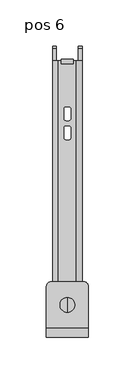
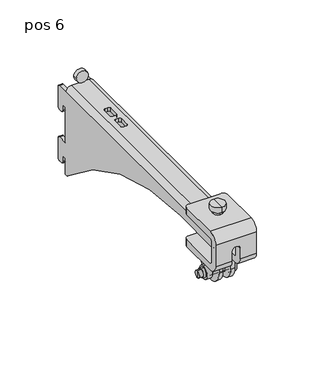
"""IFC4 building model written with IfcOpenShell, lengths in millimetres: proxy geometry, ePS8-WM280-BUMP-WVM : pos 6."""

from ifc_helpers import new_model, si_unit, point, frame, frame_2d, origin, place, context, project, spatial, polyline, circle_curve, trimmed, segment, composite_curve, outline, extrude, source, transform, mapped, element, save
from ifc_brep_helpers import plane_surface, cylinder_surface, revolved_surface, advanced_brep


def pos_6_8ef66853(model_context):
    return source(origin(), model_context, "Body", "SolidModel", [
        advanced_brep(
        [(9.6, -279.0, -76.9472975), (9.6, -279.0, -60.9805626), (16.6, -279.0, -60.9805626), (16.6, -279.0, -76.9472975), (9.6, -279.0, -74.0103853), (9.6, -279.0, -63.9174748), (-10.4, -279.0, -74.0103853), (-10.4, -279.0, -63.9174748), (-10.4, -279.0, -76.3769014), (-10.4, -279.0, -61.5509587), (-15.9, -279.0, -76.3769014), (-15.9, -279.0, -61.5509587), (-15.9, -279.0, -74.4963361), (-15.9, -279.0, -63.431524), (-22.5, -279.0, -72.9731966), (-22.5, -279.0, -64.9546636), (-18.4, -279.0, -64.9546636), (-18.4, -279.0, -72.9731966), (-22.5, -279.0, -68.9639301), (16.6, -279.0, -68.9639301), (-18.4, -279.0, -74.0103853), (-18.4, -279.0, -63.9174748)],
        [
            (0, 1, circle_curve(frame((9.6, -279.0, -68.9639301), z_axis=(1.0, 0.0, 0.0), x_axis=(0.0, 0.0, 1.0)), 7.9833675)),
            (1, 2),
            (2, 3, circle_curve(frame((16.6, -279.0, -68.9639301), z_axis=(-1.0, 0.0, 0.0), x_axis=(0.0, 0.0, 1.0)), 7.9833675)),
            (3, 0),
            (1, 0, circle_curve(frame((9.6, -279.0, -68.9639301), z_axis=(1.0, 0.0, 0.0), x_axis=(0.0, 0.0, 1.0)), 7.9833675)),
            (3, 2, circle_curve(frame((16.6, -279.0, -68.9639301), z_axis=(-1.0, 0.0, 0.0), x_axis=(0.0, 0.0, 1.0)), 7.9833675)),
            (4, 5, circle_curve(frame((9.6, -279.0, -68.9639301), z_axis=(1.0, 0.0, 0.0), x_axis=(0.0, 0.0, 1.0)), 5.0464553)),
            (5, 1),
            (0, 4),
            (5, 4, circle_curve(frame((9.6, -279.0, -68.9639301), z_axis=(1.0, 0.0, 0.0), x_axis=(0.0, 0.0, 1.0)), 5.0464553)),
            (6, 7, circle_curve(frame((-10.4, -279.0, -68.9639301), z_axis=(1.0, 0.0, 0.0), x_axis=(0.0, 0.0, 1.0)), 5.0464553)),
            (7, 5),
            (4, 6),
            (7, 6, circle_curve(frame((-10.4, -279.0, -68.9639301), z_axis=(1.0, 0.0, 0.0), x_axis=(0.0, 0.0, 1.0)), 5.0464553)),
            (8, 9, circle_curve(frame((-10.4, -279.0, -68.9639301), z_axis=(1.0, 0.0, 0.0), x_axis=(0.0, 0.0, 1.0)), 7.4129714)),
            (9, 7),
            (6, 8),
            (9, 8, circle_curve(frame((-10.4, -279.0, -68.9639301), z_axis=(1.0, 0.0, 0.0), x_axis=(0.0, 0.0, 1.0)), 7.4129714)),
            (10, 11, circle_curve(frame((-15.9, -279.0, -68.9639301), z_axis=(1.0, 0.0, 0.0), x_axis=(0.0, 0.0, 1.0)), 7.4129714)),
            (11, 9),
            (8, 10),
            (11, 10, circle_curve(frame((-15.9, -279.0, -68.9639301), z_axis=(1.0, 0.0, 0.0), x_axis=(0.0, 0.0, 1.0)), 7.4129714)),
            (12, 13, circle_curve(frame((-15.9, -279.0, -68.9639301), z_axis=(1.0, 0.0, 0.0), x_axis=(0.0, 0.0, 1.0)), 5.532406)),
            (13, 11),
            (10, 12),
            (13, 12, circle_curve(frame((-15.9, -279.0, -68.9639301), z_axis=(1.0, 0.0, 0.0), x_axis=(0.0, 0.0, 1.0)), 5.532406)),
            (14, 15, circle_curve(frame((-22.5, -279.0, -68.9639301), z_axis=(1.0, 0.0, 0.0), x_axis=(0.0, 0.0, 1.0)), 4.0092665)),
            (15, 16),
            (16, 17, circle_curve(frame((-18.4, -279.0, -68.9639301), z_axis=(-1.0, 0.0, 0.0), x_axis=(0.0, 0.0, 1.0)), 4.0092665)),
            (17, 14),
            (15, 14, circle_curve(frame((-22.5, -279.0, -68.9639301), z_axis=(1.0, 0.0, 0.0), x_axis=(0.0, 0.0, 1.0)), 4.0092665)),
            (17, 16, circle_curve(frame((-18.4, -279.0, -68.9639301), z_axis=(-1.0, 0.0, 0.0), x_axis=(0.0, 0.0, 1.0)), 4.0092665)),
            (18, 15),
            (14, 18),
            (2, 19),
            (19, 3),
            (20, 21, circle_curve(frame((-18.4, -279.0, -68.9639301), z_axis=(1.0, 0.0, 0.0), x_axis=(0.0, 0.0, 1.0)), 5.0464553)),
            (21, 13),
            (12, 20),
            (21, 20, circle_curve(frame((-18.4, -279.0, -68.9639301), z_axis=(1.0, 0.0, 0.0), x_axis=(0.0, 0.0, 1.0)), 5.0464553)),
            (16, 21),
            (20, 17),
        ],
        [
            cylinder_surface(frame((-47.541832, -279.0, -68.9639301), z_axis=(-1.0, 0.0, 0.0), x_axis=(0.0, 0.0, 1.0)), 7.9833675),
            plane_surface(frame((9.6, -279.0, -68.9639301), z_axis=(-1.0, 0.0, 0.0), x_axis=(0.0, 0.0, 1.0))),
            cylinder_surface(frame((-47.541832, -279.0, -68.9639301), z_axis=(-1.0, 0.0, 0.0), x_axis=(0.0, 0.0, 1.0)), 5.0464553),
            plane_surface(frame((-10.4, -279.0, -68.9639301), z_axis=(1.0, 0.0, 0.0), x_axis=(0.0, 0.0, 1.0))),
            cylinder_surface(frame((-47.541832, -279.0, -68.9639301), z_axis=(-1.0, 0.0, 0.0), x_axis=(0.0, 0.0, 1.0)), 7.4129714),
            plane_surface(frame((-15.9, -279.0, -68.9639301), z_axis=(-1.0, 0.0, 0.0), x_axis=(0.0, 0.0, 1.0))),
            cylinder_surface(frame((-47.541832, -279.0, -68.9639301), z_axis=(-1.0, 0.0, 0.0), x_axis=(0.0, 0.0, 1.0)), 4.0092665),
            plane_surface(frame((-22.5, -279.0, -68.9639301), z_axis=(-1.0, 0.0, 0.0), x_axis=(0.0, 0.0, 1.0))),
            plane_surface(frame((16.6, -279.0, -68.9639301), z_axis=(1.0, 0.0, 0.0), x_axis=(0.0, 0.0, 1.0))),
            revolved_surface(polyline([(-15.9, -279.0, -63.431524), (-18.4, -279.0, -63.9174748)]), (-47.541832, -279.0, -68.9639301), (-1.0, 0.0, 0.0)),
            plane_surface(frame((-18.4, -279.0, -68.9639301), z_axis=(-1.0, 0.0, 0.0), x_axis=(0.0, 0.0, 1.0))),
        ],
        [
            (0, [[1, 2, 3, 4]]),
            (0, [[5, -4, 6, -2]]),
            (1, [[7, 8, -1, 9]]),
            (1, [[10, -9, -5, -8]]),
            (2, [[11, 12, -7, 13]]),
            (2, [[14, -13, -10, -12]]),
            (3, [[15, 16, -11, 17]]),
            (3, [[18, -17, -14, -16]]),
            (4, [[19, 20, -15, 21]]),
            (4, [[22, -21, -18, -20]]),
            (5, [[23, 24, -19, 25]]),
            (5, [[26, -25, -22, -24]]),
            (6, [[27, 28, 29, 30]]),
            (6, [[31, -30, 32, -28]]),
            (7, [[33, -27, 34]]),
            (7, [[-34, -31, -33]]),
            (8, [[-3, 35, 36]]),
            (8, [[-6, -36, -35]]),
            (9, [[37, 38, -23, 39]]),
            (9, [[40, -39, -26, -38]]),
            (10, [[-29, 41, -37, 42]]),
            (10, [[-32, -42, -40, -41]]),
        ],
    ),
        extrude(outline(composite_curve([segment(polyline([(-296.5, -61.9639301), (-296.5, -48.9639301), (-261.5, -48.9639301), (-261.5, -61.9639301)]), True, "CONTINUOUS"), segment(trimmed(circle_curve(frame_2d((-278.5, -61.9639301)), 17.0), [point((-261.5, -61.9639301))], [point((-278.5, -78.9639301))], False, "CARTESIAN"), True, "CONTINUOUS"), segment(polyline([(-278.5, -78.9639301), (-279.5, -78.9639301)]), True, "CONTINUOUS"), segment(trimmed(circle_curve(frame_2d((-279.5, -61.9639301)), 17.0), [point((-279.5, -78.9639301))], [point((-296.5, -61.9639301))], False, "CARTESIAN"), True, "CONTINUOUS")], self_intersect=False), holes=[composite_curve([segment(trimmed(circle_curve(frame_2d((-279.0, -68.9639301)), 5.5), [point((-273.5, -68.9639301))], [point((-284.5, -68.9639301))], True, "CARTESIAN"), True, "CONTINUOUS"), segment(trimmed(circle_curve(frame_2d((-279.0, -68.9639301)), 5.5), [point((-284.5, -68.9639301))], [point((-273.5, -68.9639301))], True, "CARTESIAN"), True, "CONTINUOUS")], self_intersect=False)]), frame((4.5, 0.0, 0.0), z_axis=(1.0, 0.0, 0.0), x_axis=(0.0, 1.0, 0.0)), (0.0, 0.0, 1.0), 4.2),
        extrude(outline(composite_curve([segment(polyline([(-296.5, -48.9639301), (-261.5, -48.9639301), (-261.5, -61.9639301)]), True, "CONTINUOUS"), segment(trimmed(circle_curve(frame_2d((-278.5, -61.9639301)), 17.0), [point((-261.5, -61.9639301))], [point((-278.5, -78.9639301))], False, "CARTESIAN"), True, "CONTINUOUS"), segment(polyline([(-278.5, -78.9639301), (-279.5, -78.9639301)]), True, "CONTINUOUS"), segment(trimmed(circle_curve(frame_2d((-279.5, -61.9639301)), 17.0), [point((-279.5, -78.9639301))], [point((-296.5, -61.9639301))], False, "CARTESIAN"), True, "CONTINUOUS"), segment(polyline([(-296.5, -61.9639301), (-296.5, -48.9639301)]), True, "CONTINUOUS")], self_intersect=False), holes=[composite_curve([segment(trimmed(circle_curve(frame_2d((-279.0, -68.9639301)), 5.5), [point((-284.5, -68.9639301))], [point((-273.5, -68.9639301))], True, "CARTESIAN"), True, "CONTINUOUS"), segment(trimmed(circle_curve(frame_2d((-279.0, -68.9639301)), 5.5), [point((-273.5, -68.9639301))], [point((-284.5, -68.9639301))], True, "CARTESIAN"), True, "CONTINUOUS")], self_intersect=False)]), frame((-8.7, 0.0, 0.0), z_axis=(1.0, 0.0, 0.0), x_axis=(0.0, 1.0, 0.0)), (0.0, 0.0, 1.0), 4.2),
        advanced_brep(
        [(22.5, -304.0, -3.9639301), (22.5, -314.0, -13.9639301), (22.5, -314.0, -38.9639301), (22.5, -304.0, -48.9639301), (22.5, -259.0, -48.9639301), (22.5, -259.0, -40.9639301), (22.5, -304.0, -40.9639301), (22.5, -306.0, -38.9639301), (22.5, -306.0, -13.9639301), (22.5, -304.0, -11.9639301), (22.5, -259.0, -11.9639301), (22.5, -259.0, -3.9639301), (-22.5, -304.0, -11.9639301), (-22.5, -306.0, -13.9639301), (-22.5, -306.0, -38.9639301), (-22.5, -304.0, -40.9639301), (-22.5, -259.0, -40.9639301), (-22.5, -259.0, -48.9639301), (-22.5, -304.0, -48.9639301), (-22.5, -314.0, -38.9639301), (-22.5, -314.0, -13.9639301), (-22.5, -304.0, -3.9639301), (-22.5, -259.0, -3.9639301), (-22.5, -259.0, -11.9639301), (-4.5, -314.0, -38.9639301), (-4.5, -314.0, -27.388708), (-0.5, -314.0, -23.388708), (0.5, -314.0, -23.388708), (4.5, -314.0, -27.388708), (4.5, -314.0, -38.9639301), (4.5, -304.0, -48.9639301), (-4.5, -304.0, -48.9639301), (4.5, -259.0, -48.9639301), (9.5, -254.0, -48.9639301), (17.5, -254.0, -48.9639301), (-17.5, -254.0, -48.9639301), (-9.5, -254.0, -48.9639301), (-4.5, -259.0, -48.9639301), (-17.5, -254.0, -40.9639301), (-9.5, -254.0, -40.9639301), (17.5, -254.0, -40.9639301), (9.5, -254.0, -40.9639301), (4.5, -259.0, -40.9639301), (4.5, -304.0, -40.9639301), (-4.5, -304.0, -40.9639301), (-4.5, -259.0, -40.9639301), (4.5, -306.0, -38.9639301), (-4.5, -306.0, -38.9639301), (4.5, -306.0, -27.388708), (0.5, -306.0, -23.388708), (-0.5, -306.0, -23.388708), (-4.5, -306.0, -27.388708), (-17.5, -254.0, -11.9639301), (17.5, -254.0, -11.9639301), (-5.4761514, -279.0, -11.9639301), (5.4761514, -279.0, -11.9639301), (-17.5, -254.0, -3.9639301), (17.5, -254.0, -3.9639301), (5.4761514, -279.0, -3.9639301), (-5.4761514, -279.0, -3.9639301)],
        [
            (0, 1, circle_curve(frame((22.5, -304.0, -13.9639301), z_axis=(1.0, 0.0, 0.0), x_axis=(0.0, 1.0, 0.0)), 10.0)),
            (1, 2),
            (2, 3, circle_curve(frame((22.5, -304.0, -38.9639301), z_axis=(1.0, 0.0, 0.0), x_axis=(0.0, 1.0, 0.0)), 10.0)),
            (3, 4),
            (4, 5),
            (5, 6),
            (6, 7, circle_curve(frame((22.5, -304.0, -38.9639301), z_axis=(-1.0, 0.0, 0.0), x_axis=(0.0, 1.0, 0.0)), 2.0)),
            (7, 8),
            (8, 9, circle_curve(frame((22.5, -304.0, -13.9639301), z_axis=(-1.0, 0.0, 0.0), x_axis=(0.0, 1.0, 0.0)), 2.0)),
            (9, 10),
            (10, 11),
            (11, 0),
            (12, 13, circle_curve(frame((-22.5, -304.0, -13.9639301), z_axis=(1.0, 0.0, 0.0), x_axis=(0.0, 1.0, 0.0)), 2.0)),
            (13, 14),
            (14, 15, circle_curve(frame((-22.5, -304.0, -38.9639301), z_axis=(1.0, 0.0, 0.0), x_axis=(0.0, 1.0, 0.0)), 2.0)),
            (15, 16),
            (16, 17),
            (17, 18),
            (18, 19, circle_curve(frame((-22.5, -304.0, -38.9639301), z_axis=(-1.0, 0.0, 0.0), x_axis=(0.0, 1.0, 0.0)), 10.0)),
            (19, 20),
            (20, 21, circle_curve(frame((-22.5, -304.0, -13.9639301), z_axis=(-1.0, 0.0, 0.0), x_axis=(0.0, 1.0, 0.0)), 10.0)),
            (21, 22),
            (22, 23),
            (23, 12),
            (0, 21),
            (20, 1),
            (19, 24),
            (24, 25),
            (25, 26, circle_curve(frame((-0.5, -314.0, -27.388708), z_axis=(0.0, 1.0, 0.0), x_axis=(1.0, 0.0, 0.0)), 4.0)),
            (26, 27),
            (27, 28, circle_curve(frame((0.5, -314.0, -27.388708), z_axis=(0.0, 1.0, 0.0), x_axis=(1.0, 0.0, 0.0)), 4.0)),
            (28, 29),
            (29, 2),
            (29, 30, circle_curve(frame((4.5, -304.0, -38.9639301), z_axis=(1.0, 0.0, 0.0), x_axis=(0.0, 1.0, 0.0)), 10.0)),
            (30, 3),
            (18, 31),
            (31, 24, circle_curve(frame((-4.5, -304.0, -38.9639301), z_axis=(-1.0, 0.0, 0.0), x_axis=(0.0, 1.0, 0.0)), 10.0)),
            (30, 32),
            (32, 33, circle_curve(frame((9.5, -259.0, -48.9639301), z_axis=(0.0, 0.0, -1.0), x_axis=(-1.0, 0.0, 0.0)), 5.0)),
            (33, 34),
            (34, 4, circle_curve(frame((17.5, -259.0, -48.9639301), z_axis=(0.0, 0.0, -1.0), x_axis=(-1.0, 0.0, 0.0)), 5.0)),
            (17, 35, circle_curve(frame((-17.5, -259.0, -48.9639301), z_axis=(0.0, 0.0, -1.0), x_axis=(1.0, 0.0, 0.0)), 5.0)),
            (35, 36),
            (36, 37, circle_curve(frame((-9.5, -259.0, -48.9639301), z_axis=(0.0, 0.0, -1.0), x_axis=(1.0, 0.0, 0.0)), 5.0)),
            (37, 31),
            (35, 38),
            (38, 39),
            (39, 36),
            (40, 34),
            (33, 41),
            (41, 40),
            (5, 40, circle_curve(frame((17.5, -259.0, -40.9639301), z_axis=(0.0, 0.0, 1.0), x_axis=(-1.0, 0.0, 0.0)), 5.0)),
            (41, 42, circle_curve(frame((9.5, -259.0, -40.9639301), z_axis=(0.0, 0.0, 1.0), x_axis=(-1.0, 0.0, 0.0)), 5.0)),
            (42, 43),
            (43, 6),
            (15, 44),
            (44, 45),
            (45, 39, circle_curve(frame((-9.5, -259.0, -40.9639301), z_axis=(0.0, 0.0, 1.0), x_axis=(1.0, 0.0, 0.0)), 5.0)),
            (38, 16, circle_curve(frame((-17.5, -259.0, -40.9639301), z_axis=(0.0, 0.0, 1.0), x_axis=(1.0, 0.0, 0.0)), 5.0)),
            (43, 46, circle_curve(frame((4.5, -304.0, -38.9639301), z_axis=(-1.0, 0.0, 0.0), x_axis=(0.0, 1.0, 0.0)), 2.0)),
            (46, 7),
            (14, 47),
            (47, 44, circle_curve(frame((-4.5, -304.0, -38.9639301), z_axis=(1.0, 0.0, 0.0), x_axis=(0.0, 1.0, 0.0)), 2.0)),
            (46, 48),
            (48, 49, circle_curve(frame((0.5, -306.0, -27.388708), z_axis=(0.0, -1.0, 0.0), x_axis=(1.0, 0.0, 0.0)), 4.0)),
            (49, 50),
            (50, 51, circle_curve(frame((-0.5, -306.0, -27.388708), z_axis=(0.0, -1.0, 0.0), x_axis=(1.0, 0.0, 0.0)), 4.0)),
            (51, 47),
            (13, 8),
            (12, 9),
            (23, 52, circle_curve(frame((-17.5, -259.0, -11.9639301), z_axis=(0.0, 0.0, -1.0), x_axis=(1.0, 0.0, 0.0)), 5.0)),
            (52, 53),
            (53, 10, circle_curve(frame((17.5, -259.0, -11.9639301), z_axis=(0.0, 0.0, -1.0), x_axis=(-1.0, 0.0, 0.0)), 5.0)),
            (54, 55, circle_curve(frame((0.0, -279.0, -11.9639301), z_axis=(0.0, 0.0, 1.0), x_axis=(1.0, 0.0, 0.0)), 5.4761514)),
            (55, 54, circle_curve(frame((0.0, -279.0, -11.9639301), z_axis=(0.0, 0.0, 1.0), x_axis=(1.0, 0.0, 0.0)), 5.4761514)),
            (52, 56),
            (56, 57),
            (57, 53),
            (11, 57, circle_curve(frame((17.5, -259.0, -3.9639301), z_axis=(0.0, 0.0, 1.0), x_axis=(-1.0, 0.0, 0.0)), 5.0)),
            (56, 22, circle_curve(frame((-17.5, -259.0, -3.9639301), z_axis=(0.0, 0.0, 1.0), x_axis=(1.0, 0.0, 0.0)), 5.0)),
            (58, 59, circle_curve(frame((0.0, -279.0, -3.9639301), z_axis=(0.0, 0.0, -1.0), x_axis=(1.0, 0.0, 0.0)), 5.4761514)),
            (59, 58, circle_curve(frame((0.0, -279.0, -3.9639301), z_axis=(0.0, 0.0, -1.0), x_axis=(1.0, 0.0, 0.0)), 5.4761514)),
            (58, 55),
            (54, 59),
            (28, 48),
            (42, 32),
            (27, 49),
            (26, 50),
            (25, 51),
            (37, 45),
        ],
        [
            plane_surface(frame((22.5, -294.0, -13.9639301), z_axis=(1.0, 0.0, 0.0), x_axis=(0.0, 0.0, 1.0))),
            plane_surface(frame((-22.5, -294.0, -13.9639301), z_axis=(-1.0, 0.0, 0.0), x_axis=(0.0, 0.0, -1.0))),
            cylinder_surface(frame((-22.5, -304.0, -13.9639301), z_axis=(1.0, 0.0, 0.0), x_axis=(0.0, 1.0, 0.0)), 10.0),
            plane_surface(frame((22.5, -314.0, -13.9639301), z_axis=(0.0, -1.0, 0.0), x_axis=(-1.0, 0.0, 0.0))),
            cylinder_surface(frame((-22.5, -304.0, -38.9639301), z_axis=(1.0, 0.0, 0.0), x_axis=(0.0, 1.0, 0.0)), 10.0),
            plane_surface(frame((22.5, -304.0, -48.9639301), z_axis=(0.0, 0.0, -1.0), x_axis=(-1.0, 0.0, 0.0))),
            plane_surface(frame((22.5, -254.0, -48.9639301), z_axis=(0.0, 1.0, 0.0), x_axis=(-1.0, 0.0, 0.0))),
            plane_surface(frame((22.5, -254.0, -40.9639301), z_axis=(0.0, 0.0, 1.0), x_axis=(-1.0, 0.0, 0.0))),
            revolved_surface(polyline([(4.5, -302.0, -38.9639301), (22.5, -302.0, -38.9639301)]), (-22.5, -304.0, -38.9639301), (-1.0, 0.0, 0.0)),
            revolved_surface(polyline([(-22.5, -302.0, -38.9639301), (-4.5, -302.0, -38.9639301)]), (-22.5, -304.0, -38.9639301), (-1.0, 0.0, 0.0)),
            plane_surface(frame((22.5, -306.0, -38.9639301), z_axis=(0.0, 1.0, 0.0), x_axis=(-1.0, 0.0, 0.0))),
            revolved_surface(polyline([(-22.5, -302.0, -13.9639301), (22.5, -302.0, -13.9639301)]), (-22.5, -304.0, -13.9639301), (-1.0, 0.0, 0.0)),
            plane_surface(frame((22.5, -304.0, -11.9639301), z_axis=(0.0, 0.0, -1.0), x_axis=(-1.0, 0.0, 0.0))),
            plane_surface(frame((22.5, -254.0, -11.9639301), z_axis=(0.0, 1.0, 0.0), x_axis=(-1.0, 0.0, 0.0))),
            plane_surface(frame((22.5, -254.0, -3.9639301), z_axis=(0.0, 0.0, 1.0), x_axis=(-1.0, 0.0, 0.0))),
            cylinder_surface(frame((-17.5, -259.0, -48.9639301), z_axis=(0.0, 0.0, -1.0), x_axis=(1.0, 0.0, 0.0)), 5.0),
            cylinder_surface(frame((17.5, -259.0, -11.9639301), z_axis=(0.0, 0.0, -1.0), x_axis=(-1.0, 0.0, 0.0)), 5.0),
            revolved_surface(polyline([(5.4761514, -279.0, -3.9639301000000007), (5.4761514, -279.0, -11.9639301)]), (0.0, -279.0, -11.9639301), (0.0, 0.0, 1.0)),
            plane_surface(frame((4.5, -314.0, -78.9639301), z_axis=(-1.0, 0.0, 0.0), x_axis=(0.0, 1.0, 0.0))),
            revolved_surface(polyline([(4.5, -314.0, -27.388708), (4.5, -306.0, -27.388708)]), (0.5, -254.0, -27.388708), (0.0, -1.0, 0.0)),
            plane_surface(frame((0.5, -314.0, -23.388708), z_axis=(0.0, 0.0, -1.0), x_axis=(0.0, 1.0, 0.0))),
            revolved_surface(polyline([(3.5, -314.0, -27.388708), (3.5, -306.0, -27.388708)]), (-0.5, -254.0, -27.388708), (0.0, -1.0, 0.0)),
            plane_surface(frame((-4.5, -314.0, -27.388708), z_axis=(1.0, 0.0, 0.0), x_axis=(0.0, 1.0, 0.0))),
            cylinder_surface(frame((-9.5, -259.0, -48.9639301), z_axis=(0.0, 0.0, -1.0), x_axis=(1.0, 0.0, 0.0)), 5.0),
            cylinder_surface(frame((9.5, -259.0, -11.9639301), z_axis=(0.0, 0.0, -1.0), x_axis=(-1.0, 0.0, 0.0)), 5.0),
        ],
        [
            (0, [[1, 2, 3, 4, 5, 6, 7, 8, 9, 10, 11, 12]]),
            (1, [[13, 14, 15, 16, 17, 18, 19, 20, 21, 22, 23, 24]]),
            (2, [[-1, 25, -21, 26]]),
            (3, [[-2, -26, -20, 27, 28, 29, 30, 31, 32, 33]]),
            (4, [[-3, -33, 34, 35]]),
            (4, [[-19, 36, 37, -27]]),
            (5, [[-4, -35, 38, 39, 40, 41]]),
            (5, [[-18, 42, 43, 44, 45, -36]]),
            (6, [[46, 47, 48, -43]]),
            (6, [[49, -40, 50, 51]]),
            (7, [[-6, 52, -51, 53, 54, 55]]),
            (7, [[-16, 56, 57, 58, -47, 59]]),
            (8, [[-7, -55, 60, 61]]),
            (9, [[-15, 62, 63, -56]]),
            (10, [[-8, -61, 64, 65, 66, 67, 68, -62, -14, 69]]),
            (11, [[-9, -69, -13, 70]]),
            (12, [[-70, -24, 71, 72, 73, -10], [74, 75]]),
            (13, [[-72, 76, 77, 78]]),
            (14, [[-25, -12, 79, -77, 80, -22], [81, 82]]),
            (15, [[-17, -59, -46, -42]]),
            (15, [[-23, -80, -76, -71]]),
            (16, [[-5, -41, -49, -52]]),
            (16, [[-11, -73, -78, -79]]),
            (17, [[83, -74, 84, -81]]),
            (17, [[-83, -82, -84, -75]]),
            (18, [[85, -64, -60, -54, 86, -38, -34, -32]]),
            (19, [[-85, -31, 87, -65]]),
            (20, [[-87, -30, 88, -66]]),
            (21, [[-88, -29, 89, -67]]),
            (22, [[-89, -28, -37, -45, 90, -57, -63, -68]]),
            (23, [[-44, -48, -58, -90]]),
            (24, [[-39, -86, -53, -50]]),
        ],
    ),
        advanced_brep(
        [(0.0, -271.0, 0.0), (0.0, -287.0, 0.0), (0.0, -287.0, 6.0), (0.0, -271.0, 6.0), (0.0, -275.0, 0.0), (0.0, -283.0, 0.0), (0.0, -275.0, -12.0), (0.0, -283.0, -12.0), (0.0, -279.0, 6.0)],
        [
            (0, 1, circle_curve(frame((0.0, -279.0, 0.0), z_axis=(0.0, 0.0, 1.0), x_axis=(0.0, -1.0, 0.0)), 8.0)),
            (1, 2),
            (2, 3, circle_curve(frame((0.0, -279.0, 6.0), z_axis=(0.0, 0.0, -1.0), x_axis=(0.0, -1.0, 0.0)), 8.0)),
            (3, 0),
            (1, 0, circle_curve(frame((0.0, -279.0, 0.0), z_axis=(0.0, 0.0, 1.0), x_axis=(0.0, -1.0, 0.0)), 8.0)),
            (3, 2, circle_curve(frame((0.0, -279.0, 6.0), z_axis=(0.0, 0.0, -1.0), x_axis=(0.0, -1.0, 0.0)), 8.0)),
            (0, 4),
            (4, 5, circle_curve(frame((0.0, -279.0, 0.0), z_axis=(0.0, 0.0, 1.0), x_axis=(0.0, -1.0, 0.0)), 4.0)),
            (5, 1),
            (5, 4, circle_curve(frame((0.0, -279.0, 0.0), z_axis=(0.0, 0.0, 1.0), x_axis=(0.0, -1.0, 0.0)), 4.0)),
            (4, 6),
            (6, 7, circle_curve(frame((0.0, -279.0, -12.0), z_axis=(0.0, 0.0, 1.0), x_axis=(0.0, -1.0, 0.0)), 4.0)),
            (7, 5),
            (7, 6, circle_curve(frame((0.0, -279.0, -12.0), z_axis=(0.0, 0.0, 1.0), x_axis=(0.0, -1.0, 0.0)), 4.0)),
            (2, 8),
            (8, 3),
        ],
        [
            cylinder_surface(frame((0.0, -279.0, 10.4453694), z_axis=(0.0, 0.0, -1.0), x_axis=(0.0, -1.0, 0.0)), 8.0),
            plane_surface(frame((0.0, -279.0, 0.0), z_axis=(0.0, 0.0, -1.0), x_axis=(0.0, -1.0, 0.0))),
            cylinder_surface(frame((0.0, -279.0, 10.4453694), z_axis=(0.0, 0.0, -1.0), x_axis=(0.0, -1.0, 0.0)), 4.0),
            plane_surface(frame((0.0, -279.0, 6.0), z_axis=(0.0, 0.0, 1.0), x_axis=(0.0, -1.0, 0.0))),
            plane_surface(frame((4.5, -279.0, -12.0), z_axis=(0.0, 0.0, -1.0), x_axis=(0.0, 1.0, 0.0))),
        ],
        [
            (0, [[1, 2, 3, 4]]),
            (0, [[-2, 5, -4, 6]]),
            (1, [[-1, 7, 8, 9]]),
            (1, [[-5, -9, 10, -7]]),
            (2, [[-8, 11, 12, 13]]),
            (2, [[-10, -13, 14, -11]]),
            (3, [[-3, 15, 16]]),
            (3, [[-6, -16, -15]]),
            (4, [[-12, -14]]),
        ],
    ),
        advanced_brep(
        [(0.0, -269.0, -16.0), (0.0, -289.0, -16.0), (0.0, -283.5, -16.0), (-4.5, -279.0, -16.0), (0.0, -274.5, -16.0), (4.5, -279.0, -16.0), (0.0, -269.0, -30.0), (0.0, -289.0, -30.0), (0.0, -279.0, -30.0), (-4.5, -279.0, -18.0), (4.5, -279.0, -18.0)],
        [
            (0, 1, circle_curve(frame((0.0, -279.0, -16.0), z_axis=(0.0, 0.0, 1.0), x_axis=(0.0, -1.0, 0.0)), 10.0)),
            (1, 2),
            (2, 3, circle_curve(frame((0.0, -279.0, -16.0), z_axis=(0.0, 0.0, -1.0), x_axis=(1.0, 0.0, 0.0)), 4.5)),
            (3, 4, circle_curve(frame((0.0, -279.0, -16.0), z_axis=(0.0, 0.0, -1.0), x_axis=(1.0, 0.0, 0.0)), 4.5)),
            (4, 0),
            (1, 0, circle_curve(frame((0.0, -279.0, -16.0), z_axis=(0.0, 0.0, 1.0), x_axis=(0.0, -1.0, 0.0)), 10.0)),
            (4, 5, circle_curve(frame((0.0, -279.0, -16.0), z_axis=(0.0, 0.0, -1.0), x_axis=(1.0, 0.0, 0.0)), 4.5)),
            (5, 2, circle_curve(frame((0.0, -279.0, -16.0), z_axis=(0.0, 0.0, -1.0), x_axis=(1.0, 0.0, 0.0)), 4.5)),
            (0, 6),
            (6, 7, circle_curve(frame((0.0, -279.0, -30.0), z_axis=(0.0, 0.0, 1.0), x_axis=(0.0, -1.0, 0.0)), 10.0)),
            (7, 1),
            (7, 6, circle_curve(frame((0.0, -279.0, -30.0), z_axis=(0.0, 0.0, 1.0), x_axis=(0.0, -1.0, 0.0)), 10.0)),
            (6, 8),
            (8, 7),
            (9, 10, circle_curve(frame((0.0, -279.0, -18.0), z_axis=(0.0, 0.0, 1.0), x_axis=(1.0, 0.0, 0.0)), 4.5)),
            (10, 9, circle_curve(frame((0.0, -279.0, -18.0), z_axis=(0.0, 0.0, 1.0), x_axis=(1.0, 0.0, 0.0)), 4.5)),
            (9, 3),
            (5, 10),
        ],
        [
            plane_surface(frame((0.0, -279.0, -16.0), z_axis=(0.0, 0.0, 1.0), x_axis=(0.0, -1.0, 0.0))),
            cylinder_surface(frame((0.0, -279.0, 10.4453694), z_axis=(0.0, 0.0, -1.0), x_axis=(0.0, -1.0, 0.0)), 10.0),
            plane_surface(frame((0.0, -279.0, -30.0), z_axis=(0.0, 0.0, -1.0), x_axis=(0.0, -1.0, 0.0))),
            plane_surface(frame((4.5, -279.0, -18.0), z_axis=(0.0, 0.0, 1.0), x_axis=(0.0, -1.0, 0.0))),
            revolved_surface(polyline([(4.5, -279.0, -16.0), (4.5, -279.0, -18.0)]), (0.0, -279.0, -18.0), (0.0, 0.0, 1.0)),
        ],
        [
            (0, [[1, 2, 3, 4, 5]]),
            (0, [[6, -5, 7, 8, -2]]),
            (1, [[-1, 9, 10, 11]]),
            (1, [[-6, -11, 12, -9]]),
            (2, [[-10, 13, 14]]),
            (2, [[-12, -14, -13]]),
            (3, [[15, 16]]),
            (4, [[-15, 17, -3, -8, 18]]),
            (4, [[-16, -18, -7, -4, -17]]),
        ],
    ),
        advanced_brep(
        [(-11.75, -299.1066017, -18.0), (-9.75, -299.1066017, -16.0), (9.75, -299.1066017, -16.0), (11.75, -299.1066017, -18.0), (11.75, -299.1066017, -27.0), (15.75, -299.1066017, -27.0), (15.75, -299.1066017, -17.9999955), (9.7500045, -299.1066017, -12.0), (-9.7500045, -299.1066017, -12.0), (-15.75, -299.1066017, -17.9999955), (-15.75, -299.1066017, -27.0), (-11.75, -299.1066017, -27.0), (15.75, -1.0, -19.5148645), (15.75, -1.0, -44.4851355), (11.75, -1.0, -44.4851355), (11.75, -1.0, -19.5148645), (15.75, -1.0, -79.5148645), (15.75, -1.0, -104.4851355), (11.75, -1.0, -104.4851355), (11.75, -1.0, -79.5148645), (-11.75, -1.0, -19.5148645), (-11.75, -1.0, -44.4851355), (-15.75, -1.0, -44.4851355), (-15.75, -1.0, -19.5148645), (-11.75, -1.0, -79.5148645), (-11.75, -1.0, -104.4851355), (-15.75, -1.0, -104.4851355), (-15.75, -1.0, -79.5148645), (-15.75, -16.1066017, -17.9999955), (-15.75, -3.6066017, -18.0), (-15.75, -3.6066017, -46.0), (-15.75, -6.6066017, -46.0), (-15.75, -9.6066017, -43.0), (-15.75, -9.6066017, -36.5), (-15.75, -14.6066017, -36.5), (-15.75, -14.6066017, -78.0), (-15.75, -3.6066017, -78.0), (-15.75, -3.6066017, -106.0), (-15.75, -6.6066017, -106.0), (-15.75, -9.6066017, -103.0), (-15.75, -9.6066017, -96.5), (-15.75, -14.6066017, -96.5), (-15.75, -14.6066017, -115.1422902), (-15.75, -17.1105815, -115.1422902), (-15.75, -19.9637275, -113.4674758), (-15.75, -234.1066017, -30.0), (-15.75, -296.1066017, -30.0), (-11.75, -14.6066017, -115.1422902), (-11.75, -17.1105815, -115.1422902), (-11.75, -296.1066017, -30.0), (-11.75, -234.1066017, -30.0), (-11.75, -19.9637275, -113.4674758), (-11.75, -14.6066017, -96.5), (-11.75, -9.6066017, -96.5), (-11.75, -9.6066017, -103.0), (-11.75, -6.6066017, -106.0), (-11.75, -3.6066017, -106.0), (-11.75, -3.6066017, -78.0), (-11.75, -14.6066017, -78.0), (-11.75, -14.6066017, -36.5), (-11.75, -9.6066017, -36.5), (-11.75, -9.6066017, -43.0), (-11.75, -6.6066017, -46.0), (-11.75, -3.6066017, -46.0), (-11.75, -3.6066017, -18.0), (-11.75, -16.1066017, -18.0), (-9.75, -16.1066017, -16.0), (9.75, -16.1066017, -16.0), (-4.5, -279.0, -16.0), (4.5, -279.0, -16.0), (3.5, -78.6066017, -16.0), (3.5, -68.1066017, -16.0), (1.5, -66.1066017, -16.0), (-1.5, -66.1066017, -16.0), (-3.5, -68.1066017, -16.0), (-3.5, -78.6066017, -16.0), (-1.5, -80.6066017, -16.0), (1.5, -80.6066017, -16.0), (3.5, -99.1066017, -16.0), (3.5, -88.6066017, -16.0), (1.5, -86.6066017, -16.0), (-1.5, -86.6066017, -16.0), (-3.5, -88.6066017, -16.0), (-3.5, -99.1066017, -16.0), (-1.5, -101.1066017, -16.0), (1.5, -101.1066017, -16.0), (11.75, -16.1066017, -18.0), (11.75, -3.6066017, -18.0), (11.75, -3.6066017, -46.0), (11.75, -6.6066017, -46.0), (11.75, -9.6066017, -43.0), (11.75, -9.6066017, -36.5), (11.75, -14.6066017, -36.5), (11.75, -14.6066017, -78.0), (11.75, -3.6066017, -78.0), (11.75, -3.6066017, -106.0), (11.75, -6.6066017, -106.0), (11.75, -9.6066017, -103.0), (11.75, -9.6066017, -96.5), (11.75, -14.6066017, -96.5), (11.75, -14.6066017, -115.1422902), (11.75, -17.1105815, -115.1422902), (11.75, -19.9637275, -113.4674758), (11.75, -234.1066017, -30.0), (11.75, -296.1066017, -30.0), (15.75, -14.6066017, -115.1422902), (15.75, -17.1105815, -115.1422902), (15.75, -296.1066017, -30.0), (15.75, -234.1066017, -30.0), (15.75, -19.9637275, -113.4674758), (15.75, -14.6066017, -96.5), (15.75, -9.6066017, -96.5), (15.75, -9.6066017, -103.0), (15.75, -6.6066017, -106.0), (15.75, -3.6066017, -106.0), (15.75, -3.6066017, -78.0), (15.75, -14.6066017, -78.0), (15.75, -14.6066017, -36.5), (15.75, -9.6066017, -36.5), (15.75, -9.6066017, -43.0), (15.75, -6.6066017, -46.0), (15.75, -3.6066017, -46.0), (15.75, -3.6066017, -18.0), (15.75, -16.1066017, -18.0), (9.7500045, -16.1066017, -12.0), (-9.7500045, -16.1066017, -12.0), (4.5, -279.0, -12.0), (-4.5, -279.0, -12.0), (3.5, -68.1066017, -12.0), (3.5, -78.6066017, -12.0), (1.5, -80.6066017, -12.0), (-1.5, -80.6066017, -12.0), (-3.5, -78.6066017, -12.0), (-3.5, -68.1066017, -12.0), (-1.5, -66.1066017, -12.0), (1.5, -66.1066017, -12.0), (3.5, -88.6066017, -12.0), (3.5, -99.1066017, -12.0), (1.5, -101.1066017, -12.0), (-1.5, -101.1066017, -12.0), (-3.5, -99.1066017, -12.0), (-3.5, -88.6066017, -12.0), (-1.5, -86.6066017, -12.0), (1.5, -86.6066017, -12.0)],
        [
            (0, 1, circle_curve(frame((-9.75, -299.1066017, -18.0), z_axis=(0.0, 1.0, 0.0), x_axis=(1.0, 0.0, 0.0)), 2.0)),
            (1, 2),
            (2, 3, circle_curve(frame((9.75, -299.1066017, -18.0), z_axis=(0.0, 1.0, 0.0), x_axis=(-1.0, 0.0, 0.0)), 2.0)),
            (3, 4),
            (4, 5),
            (5, 6),
            (6, 7, circle_curve(frame((9.7500045, -299.1066017, -17.9999955), z_axis=(0.0, -1.0, 0.0), x_axis=(-1.0, 0.0, 0.0)), 5.9999955)),
            (7, 8),
            (8, 9, circle_curve(frame((-9.7500045, -299.1066017, -17.9999955), z_axis=(0.0, -1.0, 0.0), x_axis=(1.0, 0.0, 0.0)), 5.9999955)),
            (9, 10),
            (10, 11),
            (11, 0),
            (12, 13),
            (13, 14),
            (14, 15),
            (15, 12),
            (16, 17),
            (17, 18),
            (18, 19),
            (19, 16),
            (20, 21),
            (21, 22),
            (22, 23),
            (23, 20),
            (24, 25),
            (25, 26),
            (26, 27),
            (27, 24),
            (9, 28),
            (28, 29),
            (29, 23, circle_curve(frame((-15.75, -3.6066017, -21.0), z_axis=(-1.0, 0.0, 0.0), x_axis=(0.0, 1.0, 0.0)), 3.0)),
            (22, 30, circle_curve(frame((-15.75, -3.6066017, -43.0), z_axis=(-1.0, 0.0, 0.0), x_axis=(0.0, 1.0, 0.0)), 3.0)),
            (30, 31),
            (31, 32, circle_curve(frame((-15.75, -6.6066017, -43.0), z_axis=(-1.0, 0.0, 0.0), x_axis=(0.0, 1.0, 0.0)), 3.0)),
            (32, 33),
            (33, 34),
            (34, 35),
            (35, 36),
            (36, 27, circle_curve(frame((-15.75, -3.6066017, -81.0), z_axis=(-1.0, 0.0, 0.0), x_axis=(0.0, 1.0, 0.0)), 3.0)),
            (26, 37, circle_curve(frame((-15.75, -3.6066017, -103.0), z_axis=(-1.0, 0.0, 0.0), x_axis=(0.0, 1.0, 0.0)), 3.0)),
            (37, 38),
            (38, 39, circle_curve(frame((-15.75, -6.6066017, -103.0), z_axis=(-1.0, 0.0, 0.0), x_axis=(0.0, 1.0, 0.0)), 3.0)),
            (39, 40),
            (40, 41),
            (41, 42),
            (42, 43),
            (43, 44, circle_curve(frame((-15.75, -16.5537451, -110.926027), z_axis=(-1.0, 0.0, 0.0), x_axis=(0.0, 1.0, 0.0)), 4.2528746)),
            (44, 45, circle_curve(frame((-15.75, -234.1066017, -346.4345729), z_axis=(1.0, 0.0, 0.0), x_axis=(0.0, 1.0, 0.0)), 316.4345729)),
            (45, 46),
            (46, 10, circle_curve(frame((-15.75, -296.1066017, -27.0), z_axis=(-1.0, 0.0, 0.0), x_axis=(0.0, 1.0, 0.0)), 3.0)),
            (42, 47),
            (47, 48),
            (48, 43),
            (11, 49, circle_curve(frame((-11.75, -296.1066017, -27.0), z_axis=(1.0, 0.0, 0.0), x_axis=(0.0, 1.0, 0.0)), 3.0)),
            (49, 50),
            (50, 51, circle_curve(frame((-11.75, -234.1066017, -346.4345729), z_axis=(-1.0, 0.0, 0.0), x_axis=(0.0, 1.0, 0.0)), 316.4345729)),
            (51, 48, circle_curve(frame((-11.75, -16.5537451, -110.926027), z_axis=(1.0, 0.0, 0.0), x_axis=(0.0, 1.0, 0.0)), 4.2528746)),
            (47, 52),
            (52, 53),
            (53, 54),
            (54, 55, circle_curve(frame((-11.75, -6.6066017, -103.0), z_axis=(1.0, 0.0, 0.0), x_axis=(0.0, 1.0, 0.0)), 3.0)),
            (55, 56),
            (56, 25, circle_curve(frame((-11.75, -3.6066017, -103.0), z_axis=(1.0, 0.0, 0.0), x_axis=(0.0, 1.0, 0.0)), 3.0)),
            (24, 57, circle_curve(frame((-11.75, -3.6066017, -81.0), z_axis=(1.0, 0.0, 0.0), x_axis=(0.0, 1.0, 0.0)), 3.0)),
            (57, 58),
            (58, 59),
            (59, 60),
            (60, 61),
            (61, 62, circle_curve(frame((-11.75, -6.6066017, -43.0), z_axis=(1.0, 0.0, 0.0), x_axis=(0.0, 1.0, 0.0)), 3.0)),
            (62, 63),
            (63, 21, circle_curve(frame((-11.75, -3.6066017, -43.0), z_axis=(1.0, 0.0, 0.0), x_axis=(0.0, 1.0, 0.0)), 3.0)),
            (20, 64, circle_curve(frame((-11.75, -3.6066017, -21.0), z_axis=(1.0, 0.0, 0.0), x_axis=(0.0, 1.0, 0.0)), 3.0)),
            (64, 65),
            (65, 0),
            (65, 66, circle_curve(frame((-9.75, -16.1066017, -18.0), z_axis=(0.0, 1.0, 0.0), x_axis=(1.0, 0.0, 0.0)), 2.0)),
            (66, 1),
            (66, 67),
            (67, 2),
            (68, 69, circle_curve(frame((0.0, -279.0, -16.0), z_axis=(0.0, 0.0, 1.0), x_axis=(1.0, 0.0, 0.0)), 4.5)),
            (69, 68, circle_curve(frame((0.0, -279.0, -16.0), z_axis=(0.0, 0.0, 1.0), x_axis=(1.0, 0.0, 0.0)), 4.5)),
            (70, 71),
            (71, 72, circle_curve(frame((1.5, -68.1066017, -16.0), z_axis=(0.0, 0.0, 1.0), x_axis=(1.0, 0.0, 0.0)), 2.0)),
            (72, 73),
            (73, 74, circle_curve(frame((-1.5, -68.1066017, -16.0), z_axis=(0.0, 0.0, 1.0), x_axis=(-1.0, 0.0, 0.0)), 2.0)),
            (74, 75),
            (75, 76, circle_curve(frame((-1.5, -78.6066017, -16.0), z_axis=(0.0, 0.0, 1.0), x_axis=(-1.0, 0.0, 0.0)), 2.0)),
            (76, 77),
            (77, 70, circle_curve(frame((1.5, -78.6066017, -16.0), z_axis=(0.0, 0.0, 1.0), x_axis=(1.0, 0.0, 0.0)), 2.0)),
            (78, 79),
            (79, 80, circle_curve(frame((1.5, -88.6066017, -16.0), z_axis=(0.0, 0.0, 1.0), x_axis=(1.0, 0.0, 0.0)), 2.0)),
            (80, 81),
            (81, 82, circle_curve(frame((-1.5, -88.6066017, -16.0), z_axis=(0.0, 0.0, 1.0), x_axis=(-1.0, 0.0, 0.0)), 2.0)),
            (82, 83),
            (83, 84, circle_curve(frame((-1.5, -99.1066017, -16.0), z_axis=(0.0, 0.0, 1.0), x_axis=(-1.0, 0.0, 0.0)), 2.0)),
            (84, 85),
            (85, 78, circle_curve(frame((1.5, -99.1066017, -16.0), z_axis=(0.0, 0.0, 1.0), x_axis=(1.0, 0.0, 0.0)), 2.0)),
            (67, 86, circle_curve(frame((9.75, -16.1066017, -18.0), z_axis=(0.0, 1.0, 0.0), x_axis=(-1.0, 0.0, 0.0)), 2.0)),
            (86, 3),
            (86, 87),
            (87, 15, circle_curve(frame((11.75, -3.6066017, -21.0), z_axis=(-1.0, 0.0, 0.0), x_axis=(0.0, 1.0, 0.0)), 3.0)),
            (14, 88, circle_curve(frame((11.75, -3.6066017, -43.0), z_axis=(-1.0, 0.0, 0.0), x_axis=(0.0, 1.0, 0.0)), 3.0)),
            (88, 89),
            (89, 90, circle_curve(frame((11.75, -6.6066017, -43.0), z_axis=(-1.0, 0.0, 0.0), x_axis=(0.0, 1.0, 0.0)), 3.0)),
            (90, 91),
            (91, 92),
            (92, 93),
            (93, 94),
            (94, 19, circle_curve(frame((11.75, -3.6066017, -81.0), z_axis=(-1.0, 0.0, 0.0), x_axis=(0.0, 1.0, 0.0)), 3.0)),
            (18, 95, circle_curve(frame((11.75, -3.6066017, -103.0), z_axis=(-1.0, 0.0, 0.0), x_axis=(0.0, 1.0, 0.0)), 3.0)),
            (95, 96),
            (96, 97, circle_curve(frame((11.75, -6.6066017, -103.0), z_axis=(-1.0, 0.0, 0.0), x_axis=(0.0, 1.0, 0.0)), 3.0)),
            (97, 98),
            (98, 99),
            (99, 100),
            (100, 101),
            (101, 102, circle_curve(frame((11.75, -16.5537451, -110.926027), z_axis=(-1.0, 0.0, 0.0), x_axis=(0.0, 1.0, 0.0)), 4.2528746)),
            (102, 103, circle_curve(frame((11.75, -234.1066017, -346.4345729), z_axis=(1.0, 0.0, 0.0), x_axis=(0.0, 1.0, 0.0)), 316.4345729)),
            (103, 104),
            (104, 4, circle_curve(frame((11.75, -296.1066017, -27.0), z_axis=(-1.0, 0.0, 0.0), x_axis=(0.0, 1.0, 0.0)), 3.0)),
            (100, 105),
            (105, 106),
            (106, 101),
            (5, 107, circle_curve(frame((15.75, -296.1066017, -27.0), z_axis=(1.0, 0.0, 0.0), x_axis=(0.0, 1.0, 0.0)), 3.0)),
            (107, 108),
            (108, 109, circle_curve(frame((15.75, -234.1066017, -346.4345729), z_axis=(-1.0, 0.0, 0.0), x_axis=(0.0, 1.0, 0.0)), 316.4345729)),
            (109, 106, circle_curve(frame((15.75, -16.5537451, -110.926027), z_axis=(1.0, 0.0, 0.0), x_axis=(0.0, 1.0, 0.0)), 4.2528746)),
            (105, 110),
            (110, 111),
            (111, 112),
            (112, 113, circle_curve(frame((15.75, -6.6066017, -103.0), z_axis=(1.0, 0.0, 0.0), x_axis=(0.0, 1.0, 0.0)), 3.0)),
            (113, 114),
            (114, 17, circle_curve(frame((15.75, -3.6066017, -103.0), z_axis=(1.0, 0.0, 0.0), x_axis=(0.0, 1.0, 0.0)), 3.0)),
            (16, 115, circle_curve(frame((15.75, -3.6066017, -81.0), z_axis=(1.0, 0.0, 0.0), x_axis=(0.0, 1.0, 0.0)), 3.0)),
            (115, 116),
            (116, 117),
            (117, 118),
            (118, 119),
            (119, 120, circle_curve(frame((15.75, -6.6066017, -43.0), z_axis=(1.0, 0.0, 0.0), x_axis=(0.0, 1.0, 0.0)), 3.0)),
            (120, 121),
            (121, 13, circle_curve(frame((15.75, -3.6066017, -43.0), z_axis=(1.0, 0.0, 0.0), x_axis=(0.0, 1.0, 0.0)), 3.0)),
            (12, 122, circle_curve(frame((15.75, -3.6066017, -21.0), z_axis=(1.0, 0.0, 0.0), x_axis=(0.0, 1.0, 0.0)), 3.0)),
            (122, 123),
            (123, 6),
            (123, 124, circle_curve(frame((9.7500045, -16.1066017, -17.9999955), z_axis=(0.0, -1.0, 0.0), x_axis=(-1.0, 0.0, 0.0)), 5.9999955)),
            (124, 7),
            (124, 125),
            (125, 8),
            (126, 127, circle_curve(frame((0.0, -279.0, -12.0), z_axis=(0.0, 0.0, -1.0), x_axis=(1.0, 0.0, 0.0)), 4.5)),
            (127, 126, circle_curve(frame((0.0, -279.0, -12.0), z_axis=(0.0, 0.0, -1.0), x_axis=(1.0, 0.0, 0.0)), 4.5)),
            (128, 129),
            (129, 130, circle_curve(frame((1.5, -78.6066017, -12.0), z_axis=(0.0, 0.0, -1.0), x_axis=(1.0, 0.0, 0.0)), 2.0)),
            (130, 131),
            (131, 132, circle_curve(frame((-1.5, -78.6066017, -12.0), z_axis=(0.0, 0.0, -1.0), x_axis=(-1.0, 0.0, 0.0)), 2.0)),
            (132, 133),
            (133, 134, circle_curve(frame((-1.5, -68.1066017, -12.0), z_axis=(0.0, 0.0, -1.0), x_axis=(-1.0, 0.0, 0.0)), 2.0)),
            (134, 135),
            (135, 128, circle_curve(frame((1.5, -68.1066017, -12.0), z_axis=(0.0, 0.0, -1.0), x_axis=(1.0, 0.0, 0.0)), 2.0)),
            (136, 137),
            (137, 138, circle_curve(frame((1.5, -99.1066017, -12.0), z_axis=(0.0, 0.0, -1.0), x_axis=(1.0, 0.0, 0.0)), 2.0)),
            (138, 139),
            (139, 140, circle_curve(frame((-1.5, -99.1066017, -12.0), z_axis=(0.0, 0.0, -1.0), x_axis=(-1.0, 0.0, 0.0)), 2.0)),
            (140, 141),
            (141, 142, circle_curve(frame((-1.5, -88.6066017, -12.0), z_axis=(0.0, 0.0, -1.0), x_axis=(-1.0, 0.0, 0.0)), 2.0)),
            (142, 143),
            (143, 136, circle_curve(frame((1.5, -88.6066017, -12.0), z_axis=(0.0, 0.0, -1.0), x_axis=(1.0, 0.0, 0.0)), 2.0)),
            (125, 28, circle_curve(frame((-9.7500045, -16.1066017, -17.9999955), z_axis=(0.0, -1.0, 0.0), x_axis=(1.0, 0.0, 0.0)), 5.9999955)),
            (46, 49),
            (104, 107),
            (51, 44),
            (109, 102),
            (45, 50),
            (103, 108),
            (30, 63),
            (62, 31),
            (88, 121),
            (120, 89),
            (32, 61),
            (60, 33),
            (90, 119),
            (118, 91),
            (59, 34),
            (117, 92),
            (41, 52),
            (99, 110),
            (65, 28),
            (123, 86),
            (64, 29),
            (122, 87),
            (58, 35),
            (116, 93),
            (57, 36),
            (115, 94),
            (56, 37),
            (114, 95),
            (55, 38),
            (113, 96),
            (54, 39),
            (112, 97),
            (53, 40),
            (111, 98),
            (68, 127),
            (126, 69),
            (70, 129),
            (128, 71),
            (135, 72),
            (134, 73),
            (133, 74),
            (132, 75),
            (131, 76),
            (130, 77),
            (78, 137),
            (136, 79),
            (143, 80),
            (142, 81),
            (141, 82),
            (140, 83),
            (139, 84),
            (138, 85),
        ],
        [
            plane_surface(frame((-15.75, -299.1066017, -111.5465509), z_axis=(0.0, -1.0, 0.0), x_axis=(0.0, 0.0, -1.0))),
            plane_surface(frame((-15.75, -1.0, -111.5465509), z_axis=(0.0, 1.0, 0.0), x_axis=(0.0, 0.0, 1.0))),
            plane_surface(frame((-15.75, -299.1066017, -17.9999955), z_axis=(-1.0, 0.0, 0.0), x_axis=(0.0, 1.0, 0.0))),
            plane_surface(frame((-15.75, -299.1066017, -115.1422902), z_axis=(0.0, 0.0, -1.0), x_axis=(0.0, 1.0, 0.0))),
            plane_surface(frame((-11.75, -299.1066017, -115.1422902), z_axis=(1.0, 0.0, 0.0), x_axis=(0.0, 1.0, 0.0))),
            revolved_surface(polyline([(-7.75, -16.1066017, -18.0), (-7.75, -299.1066017, -18.0)]), (-9.75, -1.0, -18.0), (0.0, 1.0, 0.0)),
            plane_surface(frame((-9.75, -299.1066017, -16.0), z_axis=(0.0, 0.0, -1.0), x_axis=(0.0, 1.0, 0.0))),
            revolved_surface(polyline([(7.75, -16.1066017, -18.0), (7.75, -299.1066017, -18.0)]), (9.75, -1.0, -18.0), (0.0, 1.0, 0.0)),
            plane_surface(frame((11.75, -299.1066017, -18.0), z_axis=(-1.0, 0.0, 0.0), x_axis=(0.0, 1.0, 0.0))),
            plane_surface(frame((11.75, -299.1066017, -115.1422902), z_axis=(0.0, 0.0, -1.0), x_axis=(0.0, 1.0, 0.0))),
            plane_surface(frame((15.75, -299.1066017, -115.1422902), z_axis=(1.0, 0.0, 0.0), x_axis=(0.0, 1.0, 0.0))),
            cylinder_surface(frame((9.7500045, -1.0, -17.9999955), z_axis=(0.0, -1.0, 0.0), x_axis=(-1.0, 0.0, 0.0)), 5.9999955),
            plane_surface(frame((9.7500045, -299.1066017, -12.0), z_axis=(0.0, 0.0, 1.0), x_axis=(0.0, 1.0, 0.0))),
            cylinder_surface(frame((-9.7500045, -1.0, -17.9999955), z_axis=(0.0, -1.0, 0.0), x_axis=(1.0, 0.0, 0.0)), 5.9999955),
            cylinder_surface(frame((-20.0, -296.1066017, -27.0), z_axis=(-1.0, 0.0, 0.0), x_axis=(0.0, 1.0, 0.0)), 3.0),
            cylinder_surface(frame((-20.0, -16.5537451, -110.926027), z_axis=(-1.0, 0.0, 0.0), x_axis=(0.0, 1.0, 0.0)), 4.2528746),
            plane_surface(frame((20.0, -234.1066017, -30.0), z_axis=(0.0, 0.0, -1.0), x_axis=(-1.0, 0.0, 0.0))),
            plane_surface(frame((20.0, -3.6066017, -46.0), z_axis=(0.0, 0.0, -1.0), x_axis=(-1.0, 0.0, 0.0))),
            plane_surface(frame((20.0, -9.6066017, -43.0), z_axis=(0.0, -1.0, 0.0), x_axis=(-1.0, 0.0, 0.0))),
            plane_surface(frame((20.0, -9.6066017, -36.5), z_axis=(0.0, 0.0, -1.0), x_axis=(-1.0, 0.0, 0.0))),
            plane_surface(frame((20.0, -14.6066017, -96.5), z_axis=(0.0, 1.0, 0.0), x_axis=(-1.0, 0.0, 0.0))),
            plane_surface(frame((20.0, -16.1066017, -12.0), z_axis=(0.0, 1.0, 0.0), x_axis=(-1.0, 0.0, 0.0))),
            plane_surface(frame((20.0, -16.1066017, -18.0), z_axis=(0.0, 0.0, 1.0), x_axis=(-1.0, 0.0, 0.0))),
            cylinder_surface(frame((0.0, -3.6066017, -21.0), z_axis=(-1.0, 0.0, 0.0), x_axis=(0.0, 1.0, 0.0)), 3.0),
            cylinder_surface(frame((0.0, -3.6066017, -43.0), z_axis=(-1.0, 0.0, 0.0), x_axis=(0.0, 1.0, 0.0)), 3.0),
            cylinder_surface(frame((0.0, -6.6066017, -43.0), z_axis=(-1.0, 0.0, 0.0), x_axis=(0.0, 1.0, 0.0)), 3.0),
            plane_surface(frame((20.0, -14.6066017, -36.5), z_axis=(0.0, 1.0, 0.0), x_axis=(-1.0, 0.0, 0.0))),
            plane_surface(frame((20.0, -14.6066017, -78.0), z_axis=(0.0, 0.0, 1.0), x_axis=(-1.0, 0.0, 0.0))),
            cylinder_surface(frame((0.0, -3.6066017, -81.0), z_axis=(-1.0, 0.0, 0.0), x_axis=(0.0, 1.0, 0.0)), 3.0),
            cylinder_surface(frame((0.0, -3.6066017, -103.0), z_axis=(-1.0, 0.0, 0.0), x_axis=(0.0, 1.0, 0.0)), 3.0),
            plane_surface(frame((20.0, -3.6066017, -106.0), z_axis=(0.0, 0.0, -1.0), x_axis=(-1.0, 0.0, 0.0))),
            cylinder_surface(frame((0.0, -6.6066017, -103.0), z_axis=(-1.0, 0.0, 0.0), x_axis=(0.0, 1.0, 0.0)), 3.0),
            plane_surface(frame((20.0, -9.6066017, -103.0), z_axis=(0.0, -1.0, 0.0), x_axis=(-1.0, 0.0, 0.0))),
            plane_surface(frame((20.0, -9.6066017, -96.5), z_axis=(0.0, 0.0, -1.0), x_axis=(-1.0, 0.0, 0.0))),
            revolved_surface(polyline([(4.5, -279.0, -12.0), (4.5, -279.0, -16.0)]), (0.0, -279.0, -18.0), (0.0, 0.0, 1.0)),
            plane_surface(frame((3.5, -78.6066017, -12.0), z_axis=(-1.0, 0.0, 0.0), x_axis=(0.0, 0.0, -1.0))),
            revolved_surface(polyline([(3.5, -68.1066017, -12.0), (3.5, -68.1066017, -16.0)]), (1.5, -68.1066017, -12.0), (0.0, 0.0, 1.0)),
            plane_surface(frame((1.5, -66.1066017, -12.0), z_axis=(0.0, -1.0, 0.0), x_axis=(0.0, 0.0, -1.0))),
            revolved_surface(polyline([(-3.5, -68.1066017, -12.0), (-3.5, -68.1066017, -16.0)]), (-1.5, -68.1066017, -12.0), (0.0, 0.0, 1.0)),
            plane_surface(frame((-3.5, -68.1066017, -12.0), z_axis=(1.0, 0.0, 0.0), x_axis=(0.0, 0.0, -1.0))),
            revolved_surface(polyline([(-3.5, -78.6066017, -12.0), (-3.5, -78.6066017, -16.0)]), (-1.5, -78.6066017, -12.0), (0.0, 0.0, 1.0)),
            plane_surface(frame((-1.5, -80.6066017, -12.0), z_axis=(0.0, 1.0, 0.0), x_axis=(0.0, 0.0, -1.0))),
            revolved_surface(polyline([(3.5, -78.6066017, -12.0), (3.5, -78.6066017, -16.0)]), (1.5, -78.6066017, -12.0), (0.0, 0.0, 1.0)),
            plane_surface(frame((3.5, -99.1066017, -12.0), z_axis=(-1.0, 0.0, 0.0), x_axis=(0.0, 0.0, -1.0))),
            revolved_surface(polyline([(3.5, -88.6066017, -12.0), (3.5, -88.6066017, -16.0)]), (1.5, -88.6066017, -12.0), (0.0, 0.0, 1.0)),
            plane_surface(frame((1.5, -86.6066017, -12.0), z_axis=(0.0, -1.0, 0.0), x_axis=(0.0, 0.0, -1.0))),
            revolved_surface(polyline([(-3.5, -88.6066017, -12.0), (-3.5, -88.6066017, -16.0)]), (-1.5, -88.6066017, -12.0), (0.0, 0.0, 1.0)),
            plane_surface(frame((-3.5, -88.6066017, -12.0), z_axis=(1.0, 0.0, 0.0), x_axis=(0.0, 0.0, -1.0))),
            revolved_surface(polyline([(-3.5, -99.1066017, -12.0), (-3.5, -99.1066017, -16.0)]), (-1.5, -99.1066017, -12.0), (0.0, 0.0, 1.0)),
            plane_surface(frame((-1.5, -101.1066017, -12.0), z_axis=(0.0, 1.0, 0.0), x_axis=(0.0, 0.0, -1.0))),
            revolved_surface(polyline([(3.5, -99.1066017, -12.0), (3.5, -99.1066017, -16.0)]), (1.5, -99.1066017, -12.0), (0.0, 0.0, 1.0)),
            revolved_surface(polyline([(-11.75, 82.32797119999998, -346.4345729), (-15.75, 82.32797119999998, -346.4345729)]), (-20.0, -234.1066017, -346.4345729), (1.0, 0.0, 0.0)),
            revolved_surface(polyline([(15.75, 82.32797119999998, -346.4345729), (11.75, 82.32797119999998, -346.4345729)]), (-20.0, -234.1066017, -346.4345729), (1.0, 0.0, 0.0)),
        ],
        [
            (0, [[1, 2, 3, 4, 5, 6, 7, 8, 9, 10, 11, 12]]),
            (1, [[13, 14, 15, 16]]),
            (1, [[17, 18, 19, 20]]),
            (1, [[21, 22, 23, 24]]),
            (1, [[25, 26, 27, 28]]),
            (2, [[-10, 29, 30, 31, -23, 32, 33, 34, 35, 36, 37, 38, 39, -27, 40, 41, 42, 43, 44, 45, 46, 47, 48, 49, 50]]),
            (3, [[-46, 51, 52, 53]]),
            (4, [[-12, 54, 55, 56, 57, -52, 58, 59, 60, 61, 62, 63, -25, 64, 65, 66, 67, 68, 69, 70, 71, -21, 72, 73, 74]]),
            (5, [[-1, -74, 75, 76]]),
            (6, [[-2, -76, 77, 78], [79, 80], [81, 82, 83, 84, 85, 86, 87, 88], [89, 90, 91, 92, 93, 94, 95, 96]]),
            (7, [[-3, -78, 97, 98]]),
            (8, [[-4, -98, 99, 100, -15, 101, 102, 103, 104, 105, 106, 107, 108, -19, 109, 110, 111, 112, 113, 114, 115, 116, 117, 118, 119]]),
            (9, [[-115, 120, 121, 122]]),
            (10, [[-6, 123, 124, 125, 126, -121, 127, 128, 129, 130, 131, 132, -17, 133, 134, 135, 136, 137, 138, 139, 140, -13, 141, 142, 143]]),
            (11, [[-7, -143, 144, 145]]),
            (12, [[-8, -145, 146, 147], [148, 149], [150, 151, 152, 153, 154, 155, 156, 157], [158, 159, 160, 161, 162, 163, 164, 165]]),
            (13, [[-9, -147, 166, -29]]),
            (14, [[167, -54, -11, -50]]),
            (14, [[168, -123, -5, -119]]),
            (15, [[169, -47, -53, -57]]),
            (15, [[170, -116, -122, -126]]),
            (16, [[-167, -49, 171, -55]]),
            (16, [[-168, -118, 172, -124]]),
            (17, [[173, -70, 174, -33]]),
            (17, [[175, -139, 176, -102]]),
            (18, [[177, -68, 178, -35]]),
            (18, [[179, -137, 180, -104]]),
            (19, [[-178, -67, 181, -36]]),
            (19, [[-180, -136, 182, -105]]),
            (20, [[183, -58, -51, -45]]),
            (20, [[184, -127, -120, -114]]),
            (21, [[185, -166, -146, -144, 186, -97, -77, -75]]),
            (22, [[-185, -73, 187, -30]]),
            (22, [[-186, -142, 188, -99]]),
            (23, [[-187, -72, -24, -31]]),
            (23, [[-188, -141, -16, -100]]),
            (24, [[-173, -32, -22, -71]]),
            (24, [[-175, -101, -14, -140]]),
            (25, [[-177, -34, -174, -69]]),
            (25, [[-179, -103, -176, -138]]),
            (26, [[-181, -66, 189, -37]]),
            (26, [[-182, -135, 190, -106]]),
            (27, [[-189, -65, 191, -38]]),
            (27, [[-190, -134, 192, -107]]),
            (28, [[-191, -64, -28, -39]]),
            (28, [[-192, -133, -20, -108]]),
            (29, [[193, -40, -26, -63]]),
            (29, [[194, -109, -18, -132]]),
            (30, [[-193, -62, 195, -41]]),
            (30, [[-194, -131, 196, -110]]),
            (31, [[-195, -61, 197, -42]]),
            (31, [[-196, -130, 198, -111]]),
            (32, [[-197, -60, 199, -43]]),
            (32, [[-198, -129, 200, -112]]),
            (33, [[-183, -44, -199, -59]]),
            (33, [[-184, -113, -200, -128]]),
            (34, [[201, -148, 202, -79]]),
            (34, [[-201, -80, -202, -149]]),
            (35, [[203, -150, 204, -81]]),
            (36, [[-204, -157, 205, -82]]),
            (37, [[-205, -156, 206, -83]]),
            (38, [[-206, -155, 207, -84]]),
            (39, [[-207, -154, 208, -85]]),
            (40, [[-208, -153, 209, -86]]),
            (41, [[-209, -152, 210, -87]]),
            (42, [[-203, -88, -210, -151]]),
            (43, [[211, -158, 212, -89]]),
            (44, [[-212, -165, 213, -90]]),
            (45, [[-213, -164, 214, -91]]),
            (46, [[-214, -163, 215, -92]]),
            (47, [[-215, -162, 216, -93]]),
            (48, [[-216, -161, 217, -94]]),
            (49, [[-217, -160, 218, -95]]),
            (50, [[-211, -96, -218, -159]]),
            (51, [[-171, -48, -169, -56]]),
            (52, [[-172, -117, -170, -125]]),
        ],
    ),
        extrude(outline(composite_curve([segment(trimmed(circle_curve(frame_2d((-3.5647723, 0.0)), 6.5342939), [point((-3.5647723, -6.5342939))], [point((-3.5647723, 6.5342939))], False, "CARTESIAN"), True, "CONTINUOUS"), segment(trimmed(circle_curve(frame_2d((-3.5647723, 0.0)), 6.5342939), [point((-3.5647723, 6.5342939))], [point((-3.5647723, -6.5342939))], False, "CARTESIAN"), True, "CONTINUOUS")], self_intersect=False)), frame((0.0, -19.6066017, 0.0), z_axis=(0.0, 1.0, 0.0), x_axis=(0.0, 0.0, 1.0)), (0.0, 0.0, 1.0), 5.0),
    ])


if __name__ == "__main__":
    model = new_model("IFC4")
    model_context = context("Model", 3, world=origin())
    ifc_project = project(units=[si_unit("LENGTHUNIT", "METRE", prefix="MILLI")], contexts=[model_context])
    site = spatial("IfcSite", under=ifc_project)
    building = spatial("IfcBuilding", under=site)
    placement = place(None, origin())
    pos_6_shape = pos_6_8ef66853(model_context)
    element("IfcBuildingElementProxy", 1, Name="ePS8-WM280-BUMP-WVM : pos 6", ObjectType="ePS8-WM280-BUMP-WVM : pos 6", at=placement, inside=building, context=model_context, shape_type="MappedRepresentation", body=[
        mapped(pos_6_shape, transform((0.0, 0.0, 0.0), x_axis=(1.0, 0.0, 0.0), y_axis=(0.0, 1.0, 0.0), z_axis=(0.0, 0.0, 1.0))),
    ])
    save(model, "model.ifc")
